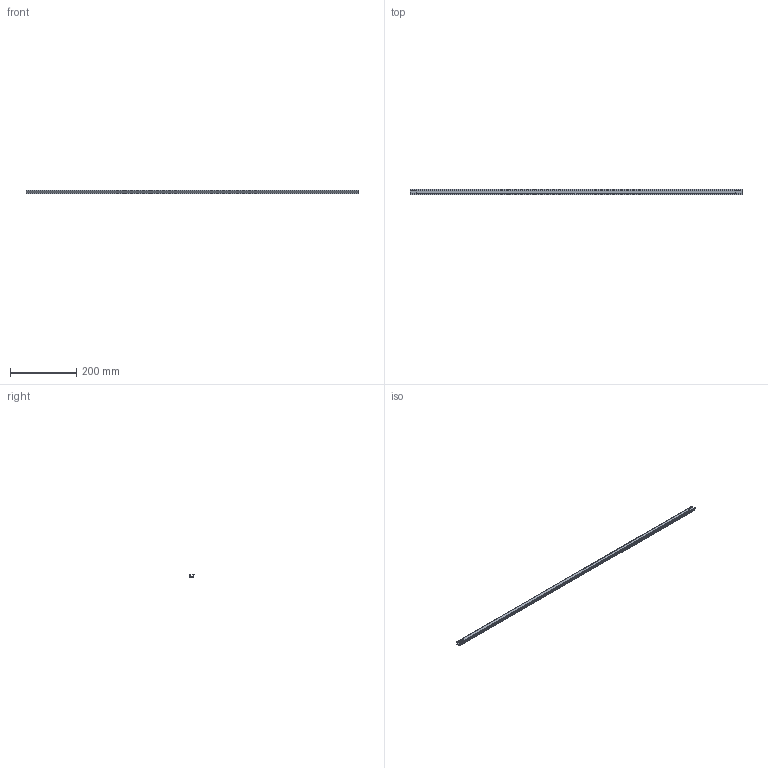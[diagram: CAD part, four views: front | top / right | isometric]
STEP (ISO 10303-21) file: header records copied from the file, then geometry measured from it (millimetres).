
FILE_DESCRIPTION (( 'STEP AP203' ), '1' );
FILE_NAME ('Edge Profile - 1000mm.STEP', '2024-06-12T12:28:09', ( '' ), ( '' ), 'SwSTEP 2.0', 'SolidWorks 2020', '' );
FILE_SCHEMA (( 'CONFIG_CONTROL_DESIGN' ));
Length unit declared in the file: millimetre
Products named in the file (1): Edge Profile - 1000mm
Bounding box: 1000 x 17.7 x 12 mm (x, y, z)
Volume: 62387.9 mm3; surface area: 122402.6 mm2
Topology: 1 solids, 1 shells, 93 faces, 273 edges, 182 vertices
Faces by surface type: cylinder 50, plane 43
Entity records: 3204 total; most frequent: DIRECTION 561, CARTESIAN_POINT 549, ORIENTED_EDGE 546, EDGE_CURVE 273, AXIS2_PLACEMENT_3D 194, VERTEX_POINT 182, LINE 173, VECTOR 173
